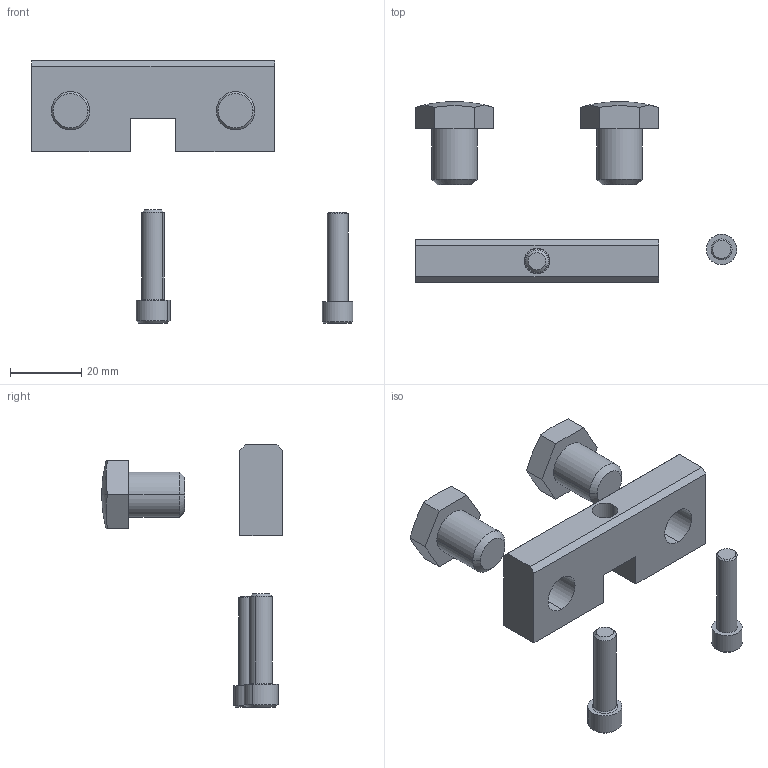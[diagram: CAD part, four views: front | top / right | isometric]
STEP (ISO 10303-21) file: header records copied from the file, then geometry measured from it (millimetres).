
FILE_DESCRIPTION (( 'STEP AP203' ), '1' );
FILE_NAME ('06-0130.STEP', '2022-07-18T16:20:42', ( '' ), ( '' ), 'SwSTEP 2.0', 'SolidWorks 2021', '' );
FILE_SCHEMA (( 'CONFIG_CONTROL_DESIGN' ));
Length unit declared in the file: inch
Products named in the file (5): 06-0130; 10000019878; 20-0415; 20-0425; 40-2001_HX-SHCS 0.25-20x1x1-N
Assembly tree (5 placements, depth 2):
  06-0130
    20-0425
    10000019878
    20-0415  x2
    40-2001_HX-SHCS 0.25-20x1x1-N
Bounding box: 90.07 x 50.67 x 73.46 mm (x, y, z)
Volume: 26682.2 mm3; surface area: 11178.6 mm2
Topology: 5 solids, 5 shells, 91 faces, 204 edges, 127 vertices
Faces by surface type: plane 53, cylinder 18, cone 14, sphere 4, torus 2
Entity records: 2703 total; most frequent: DIRECTION 402, CARTESIAN_POINT 365, ORIENTED_EDGE 344, EDGE_CURVE 172, AXIS2_PLACEMENT_3D 145, LINE 112, VECTOR 112, VERTEX_POINT 108
